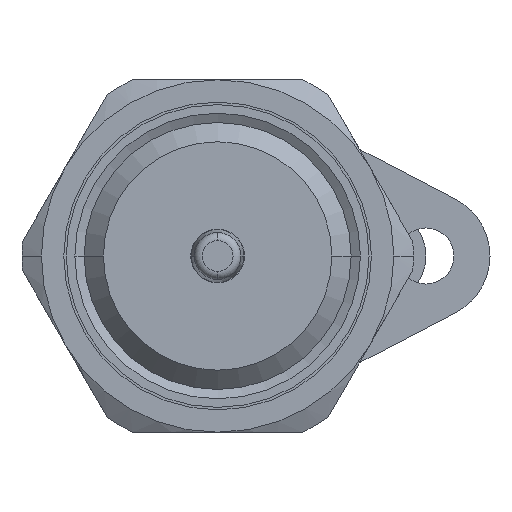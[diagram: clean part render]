
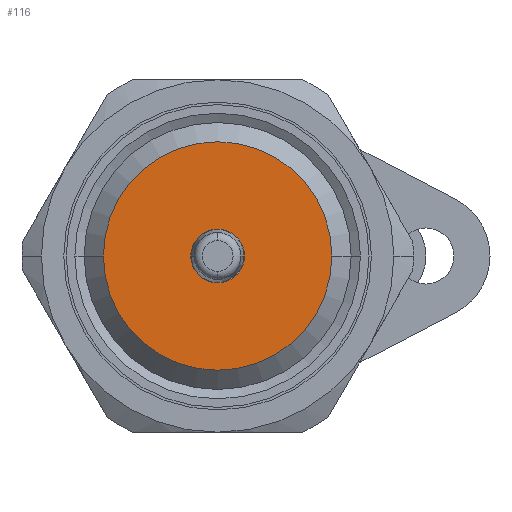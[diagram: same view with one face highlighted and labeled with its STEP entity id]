
A CAD part, front view. The second image highlights one B-rep face of the part: STEP entity #116.
In plain terms, the highlighted planar face has unit normal (0, -1, 0).
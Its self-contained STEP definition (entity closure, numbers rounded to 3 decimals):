
#116=ADVANCED_FACE('',(#453,#454),#455,.T.);
#453=FACE_BOUND('',#1098,.T.);
#454=FACE_OUTER_BOUND('',#1099,.T.);
#455=PLANE('',#1100);
#1098=EDGE_LOOP('',(#1905,#1906));
#1099=EDGE_LOOP('',(#1907,#1908));
#1100=AXIS2_PLACEMENT_3D('',#1909,#1910,#1911);
#1905=ORIENTED_EDGE('',*,*,#4182,.T.);
#1906=ORIENTED_EDGE('',*,*,#4181,.T.);
#1907=ORIENTED_EDGE('',*,*,#4176,.F.);
#1908=ORIENTED_EDGE('',*,*,#4185,.F.);
#1909=CARTESIAN_POINT('',(3.566,-20.5,0.0));
#1910=DIRECTION('',(-0.0,-1.0,-0.0));
#1911=DIRECTION('',(-1.0,0.0,0.0));
#4176=EDGE_CURVE('',#4986,#4988,#4989,.T.);
#4181=EDGE_CURVE('',#4992,#4996,#4998,.T.);
#4182=EDGE_CURVE('',#4996,#4992,#4999,.T.);
#4185=EDGE_CURVE('',#4988,#4986,#5002,.T.);
#4986=VERTEX_POINT('',#6307);
#4988=VERTEX_POINT('',#6310);
#4989=CIRCLE('',#6311,7.131);
#4992=VERTEX_POINT('',#6315);
#4996=VERTEX_POINT('',#6320);
#4998=CIRCLE('',#6323,1.675);
#4999=CIRCLE('',#6324,1.675);
#5002=CIRCLE('',#6327,7.131);
#6307=CARTESIAN_POINT('',(7.131,-20.5,0.0));
#6310=CARTESIAN_POINT('',(-7.131,-20.5,0.));
#6311=AXIS2_PLACEMENT_3D('',#9201,#9202,#9203);
#6315=CARTESIAN_POINT('',(1.675,-20.5,0.));
#6320=CARTESIAN_POINT('',(-1.675,-20.5,0.));
#6323=AXIS2_PLACEMENT_3D('',#9210,#9211,#9212);
#6324=AXIS2_PLACEMENT_3D('',#9213,#9214,#9215);
#6327=AXIS2_PLACEMENT_3D('',#9222,#9223,#9224);
#9201=CARTESIAN_POINT('',(0.0,-20.5,0.0));
#9202=DIRECTION('',(-0.0,1.0,0.0));
#9203=DIRECTION('',(1.0,0.0,0.0));
#9210=CARTESIAN_POINT('',(0.0,-20.5,0.0));
#9211=DIRECTION('',(-0.0,1.0,0.0));
#9212=DIRECTION('',(1.0,0.0,0.0));
#9213=CARTESIAN_POINT('',(0.0,-20.5,0.0));
#9214=DIRECTION('',(-0.0,1.0,0.0));
#9215=DIRECTION('',(1.0,0.0,0.0));
#9222=CARTESIAN_POINT('',(0.0,-20.5,0.0));
#9223=DIRECTION('',(-0.0,1.0,0.0));
#9224=DIRECTION('',(1.0,0.0,0.0));
